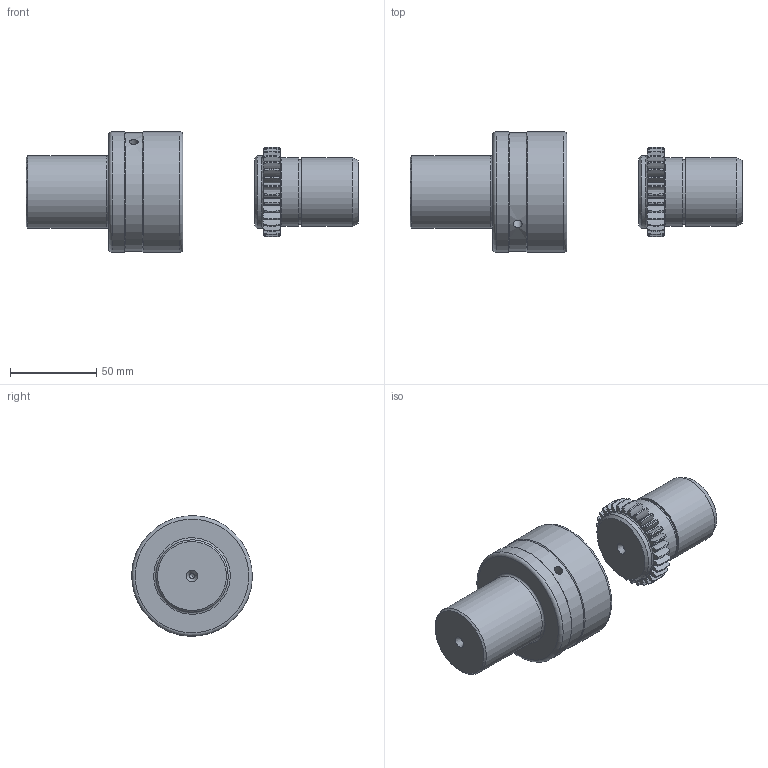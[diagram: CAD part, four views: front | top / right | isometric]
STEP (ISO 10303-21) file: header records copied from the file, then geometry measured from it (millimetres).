
FILE_DESCRIPTION((''),'2;1');
FILE_NAME('M:\Disegni 3D\GIFLEX\GIFLEX GFAS\GFAS-25\Assieme - Manicotto lungo Mozzo lungo.stp','2015-12-16T11:55:38',('fabietto'),(''),'Autodesk Inventor 2013','Autodesk Inventor 2013','');
FILE_SCHEMA(('AUTOMOTIVE_DESIGN { 1 0 10303 214 1 1 1 1 }'));
Length unit declared in the file: millimetre
Products named in the file (3): Assieme - Manicotto lungo Mozzo lungo; Mozzo dentato lungo; Campana dentata lunga
Assembly tree (2 placements, depth 2):
  Assieme - Manicotto lungo Mozzo lungo
    Mozzo dentato lungo
    Campana dentata lunga
Bounding box: 192.55 x 69.92 x 69.92 mm (x, y, z)
Volume: 237820 mm3; surface area: 43639.6 mm2
Topology: 2 solids, 2 shells, 464 faces, 1411 edges, 953 vertices
Faces by surface type: cylinder 241, cone 142, plane 43, sphere 32, torus 6
Full cylindrical faces by diameter (mm): 3.15 x4, 5 x2, 37.5 x1, 40 x2, 42 x2, 60 x1, 69 x1, 70 x2
Entity records: 16919 total; most frequent: CARTESIAN_POINT 4575, ORIENTED_EDGE 2724, DIRECTION 2560, EDGE_CURVE 1362, AXIS2_PLACEMENT_3D 1184, VERTEX_POINT 942, CIRCLE 715, EDGE_LOOP 508
